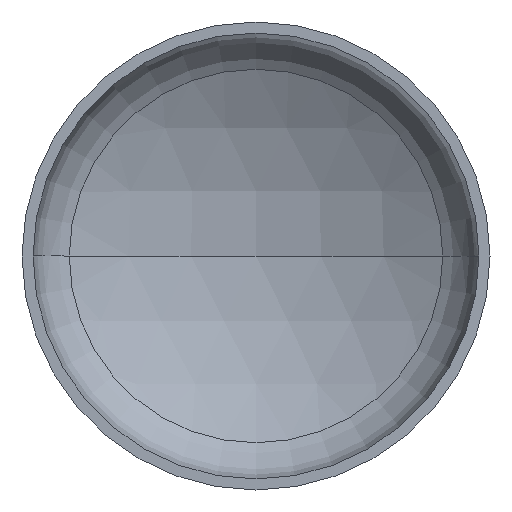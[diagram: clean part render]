
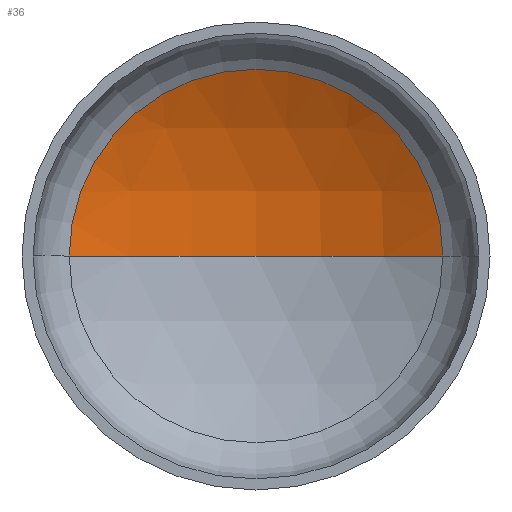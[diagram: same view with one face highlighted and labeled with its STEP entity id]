
A CAD part, front view. The second image highlights one B-rep face of the part: STEP entity #36.
In plain terms, the highlighted spherical face has radius 3600 mm.
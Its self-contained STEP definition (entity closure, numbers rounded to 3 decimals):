
#1 = AXIS2_PLACEMENT_3D ( 'NONE', #112, #186, #295 ) ;
#15 = DIRECTION ( 'NONE',  ( -1., 0., 0. ) ) ;
#16 = EDGE_LOOP ( 'NONE', ( #98, #90, #245 ) ) ;
#27 = AXIS2_PLACEMENT_3D ( 'NONE', #224, #392, #15 ) ;
#28 = AXIS2_PLACEMENT_3D ( 'NONE', #207, #177, #182 ) ;
#36 = ADVANCED_FACE ( 'NONE', ( #272 ), #197, .F. ) ;
#48 = AXIS2_PLACEMENT_3D ( 'NONE', #380, #292, #293 ) ;
#64 = EDGE_CURVE ( 'NONE', #146, #101, #173, .T. ) ;
#71 = EDGE_CURVE ( 'NONE', #103, #146, #373, .T. ) ;
#74 = CARTESIAN_POINT ( 'NONE',  ( 0., 1157.179, 0. ) ) ;
#90 = ORIENTED_EDGE ( 'NONE', *, *, #71, .T. ) ;
#98 = ORIENTED_EDGE ( 'NONE', *, *, #346, .F. ) ;
#101 = VERTEX_POINT ( 'NONE', #296 ) ;
#103 = VERTEX_POINT ( 'NONE', #74 ) ;
#112 = CARTESIAN_POINT ( 'NONE',  ( 0., -2442.821, 0. ) ) ;
#146 = VERTEX_POINT ( 'NONE', #192 ) ;
#173 = CIRCLE ( 'NONE', #28, 1795.663 ) ;
#177 = DIRECTION ( 'NONE',  ( 0., -1., 0. ) ) ;
#182 = DIRECTION ( 'NONE',  ( 1., 0., 0. ) ) ;
#186 = DIRECTION ( 'NONE',  ( 0., 0., 1. ) ) ;
#192 = CARTESIAN_POINT ( 'NONE',  ( 1795.663, 677.37, 0. ) ) ;
#197 = SPHERICAL_SURFACE ( 'NONE', #48, 3600. ) ;
#207 = CARTESIAN_POINT ( 'NONE',  ( 0., 677.37, 0. ) ) ;
#214 = CIRCLE ( 'NONE', #1, 3600. ) ;
#224 = CARTESIAN_POINT ( 'NONE',  ( 0., -2442.821, 0. ) ) ;
#245 = ORIENTED_EDGE ( 'NONE', *, *, #64, .T. ) ;
#272 = FACE_OUTER_BOUND ( 'NONE', #16, .T. ) ;
#292 = DIRECTION ( 'NONE',  ( 0., 0., -1. ) ) ;
#293 = DIRECTION ( 'NONE',  ( -1., 0., 0. ) ) ;
#295 = DIRECTION ( 'NONE',  ( 1., 0., 0. ) ) ;
#296 = CARTESIAN_POINT ( 'NONE',  ( -1795.663, 677.37, 0. ) ) ;
#346 = EDGE_CURVE ( 'NONE', #103, #101, #214, .T. ) ;
#373 = CIRCLE ( 'NONE', #27, 3600. ) ;
#380 = CARTESIAN_POINT ( 'NONE',  ( 0., -2442.821, 0. ) ) ;
#392 = DIRECTION ( 'NONE',  ( 0., 0., -1. ) ) ;
